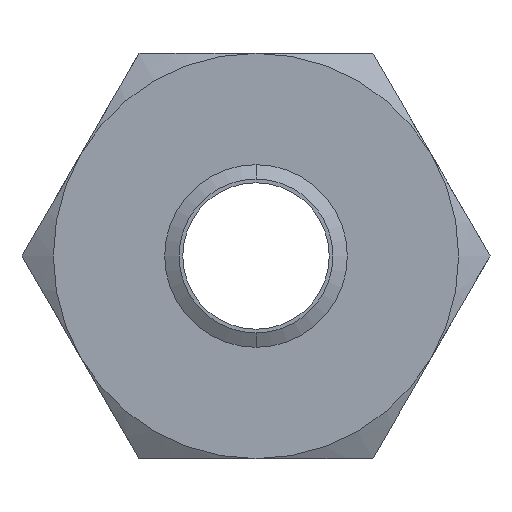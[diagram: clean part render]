
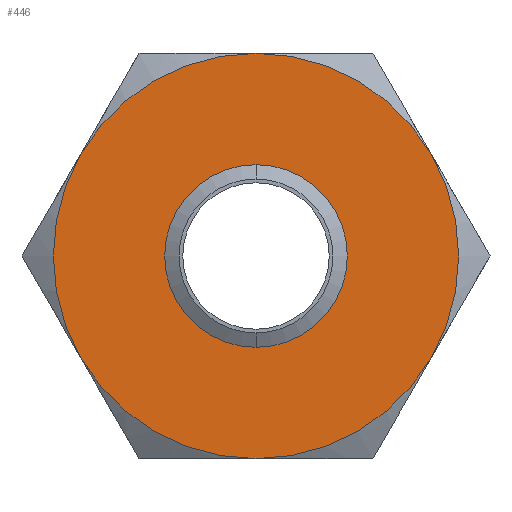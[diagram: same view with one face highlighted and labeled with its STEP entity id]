
A CAD part, front view. The second image highlights one B-rep face of the part: STEP entity #446.
In plain terms, the highlighted planar face has unit normal (0, -1, 0).
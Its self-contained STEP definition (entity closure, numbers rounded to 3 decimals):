
#58 = PLANE ( 'NONE',  #59 ) ;
#59 = AXIS2_PLACEMENT_3D ( 'NONE', #62, #61, #60 ) ;
#60 = DIRECTION ( 'NONE',  ( 0., 0., 1. ) ) ;
#61 = DIRECTION ( 'NONE',  ( 0., 1., 0. ) ) ;
#62 = CARTESIAN_POINT ( 'NONE',  ( 44.745, 0., -77.5 ) ) ;
#423 = ORIENTED_EDGE ( 'NONE', *, *, #2450, .F. ) ;
#431 = EDGE_CURVE ( 'NONE', #432, #436, #1377, .T. ) ;
#432 = VERTEX_POINT ( 'NONE', #1434 ) ;
#434 = ORIENTED_EDGE ( 'NONE', *, *, #431, .F. ) ;
#435 = ORIENTED_EDGE ( 'NONE', *, *, #440, .F. ) ;
#436 = VERTEX_POINT ( 'NONE', #1433 ) ;
#437 = VERTEX_POINT ( 'NONE', #1432 ) ;
#438 = EDGE_CURVE ( 'NONE', #437, #442, #1431, .T. ) ;
#439 = ORIENTED_EDGE ( 'NONE', *, *, #438, .F. ) ;
#440 = EDGE_CURVE ( 'NONE', #436, #437, #1426, .T. ) ;
#441 = EDGE_CURVE ( 'NONE', #442, #443, #1421, .T. ) ;
#442 = VERTEX_POINT ( 'NONE', #1416 ) ;
#443 = VERTEX_POINT ( 'NONE', #1415 ) ;
#444 = ORIENTED_EDGE ( 'NONE', *, *, #441, .F. ) ;
#446 = ADVANCED_FACE ( 'NONE', ( #1410, #1409 ), #58, .F. ) ;
#447 = EDGE_LOOP ( 'NONE', ( #444, #439, #435, #434, #423, #458 ) ) ;
#458 = ORIENTED_EDGE ( 'NONE', *, *, #537, .F. ) ;
#460 = ORIENTED_EDGE ( 'NONE', *, *, #553, .F. ) ;
#461 = ORIENTED_EDGE ( 'NONE', *, *, #462, .F. ) ;
#462 = EDGE_CURVE ( 'NONE', #555, #554, #1450, .T. ) ;
#536 = EDGE_LOOP ( 'NONE', ( #460, #461 ) ) ;
#537 = EDGE_CURVE ( 'NONE', #443, #2453, #1618, .T. ) ;
#553 = EDGE_CURVE ( 'NONE', #554, #555, #1651, .T. ) ;
#554 = VERTEX_POINT ( 'NONE', #1643 ) ;
#555 = VERTEX_POINT ( 'NONE', #1642 ) ;
#1377 = CIRCLE ( 'NONE', #1438, 77.5 ) ;
#1409 = FACE_BOUND ( 'NONE', #536, .T. ) ;
#1410 = FACE_OUTER_BOUND ( 'NONE', #447, .T. ) ;
#1415 = CARTESIAN_POINT ( 'NONE',  ( 67.117, 0., 38.75 ) ) ;
#1416 = CARTESIAN_POINT ( 'NONE',  ( 0., 0., 77.5 ) ) ;
#1417 = DIRECTION ( 'NONE',  ( 0., 0., 1. ) ) ;
#1418 = DIRECTION ( 'NONE',  ( 0., 1., 0. ) ) ;
#1419 = CARTESIAN_POINT ( 'NONE',  ( 0., 0., 0. ) ) ;
#1420 = AXIS2_PLACEMENT_3D ( 'NONE', #1419, #1418, #1417 ) ;
#1421 = CIRCLE ( 'NONE', #1420, 77.5 ) ;
#1422 = DIRECTION ( 'NONE',  ( 0., 0., 1. ) ) ;
#1423 = DIRECTION ( 'NONE',  ( 0., 1., 0. ) ) ;
#1424 = CARTESIAN_POINT ( 'NONE',  ( 0., 0., 0. ) ) ;
#1425 = AXIS2_PLACEMENT_3D ( 'NONE', #1424, #1423, #1422 ) ;
#1426 = CIRCLE ( 'NONE', #1425, 77.5 ) ;
#1427 = DIRECTION ( 'NONE',  ( 0., 0., 1. ) ) ;
#1428 = DIRECTION ( 'NONE',  ( 0., 1., 0. ) ) ;
#1429 = CARTESIAN_POINT ( 'NONE',  ( 0., 0., 0. ) ) ;
#1430 = AXIS2_PLACEMENT_3D ( 'NONE', #1429, #1428, #1427 ) ;
#1431 = CIRCLE ( 'NONE', #1430, 77.5 ) ;
#1432 = CARTESIAN_POINT ( 'NONE',  ( -67.117, 0., 38.75 ) ) ;
#1433 = CARTESIAN_POINT ( 'NONE',  ( -67.117, 0., -38.75 ) ) ;
#1434 = CARTESIAN_POINT ( 'NONE',  ( 0., 0., -77.5 ) ) ;
#1435 = DIRECTION ( 'NONE',  ( 0., 0., 1. ) ) ;
#1436 = DIRECTION ( 'NONE',  ( 0., 1., 0. ) ) ;
#1437 = CARTESIAN_POINT ( 'NONE',  ( 0., 0., 0. ) ) ;
#1438 = AXIS2_PLACEMENT_3D ( 'NONE', #1437, #1436, #1435 ) ;
#1443 = DIRECTION ( 'NONE',  ( 0., 0., -1. ) ) ;
#1444 = DIRECTION ( 'NONE',  ( 0., -1., 0. ) ) ;
#1445 = CARTESIAN_POINT ( 'NONE',  ( 0., 0., 0. ) ) ;
#1446 = AXIS2_PLACEMENT_3D ( 'NONE', #1445, #1444, #1443 ) ;
#1450 = CIRCLE ( 'NONE', #1446, 29.426 ) ;
#1614 = DIRECTION ( 'NONE',  ( 0., 0., 1. ) ) ;
#1615 = DIRECTION ( 'NONE',  ( 0., 1., 0. ) ) ;
#1616 = CARTESIAN_POINT ( 'NONE',  ( 0., 0., 0. ) ) ;
#1617 = AXIS2_PLACEMENT_3D ( 'NONE', #1616, #1615, #1614 ) ;
#1618 = CIRCLE ( 'NONE', #1617, 77.5 ) ;
#1642 = CARTESIAN_POINT ( 'NONE',  ( 0., 0., 29.426 ) ) ;
#1643 = CARTESIAN_POINT ( 'NONE',  ( 0., 0., -29.426 ) ) ;
#1644 = DIRECTION ( 'NONE',  ( 0., 0., -1. ) ) ;
#1645 = DIRECTION ( 'NONE',  ( 0., -1., 0. ) ) ;
#1646 = CARTESIAN_POINT ( 'NONE',  ( 0., 0., 0. ) ) ;
#1647 = AXIS2_PLACEMENT_3D ( 'NONE', #1646, #1645, #1644 ) ;
#1651 = CIRCLE ( 'NONE', #1647, 29.426 ) ;
#2192 = CARTESIAN_POINT ( 'NONE',  ( 0., 0., 0. ) ) ;
#2193 = AXIS2_PLACEMENT_3D ( 'NONE', #2192, #2259, #2258 ) ;
#2200 = CIRCLE ( 'NONE', #2193, 77.5 ) ;
#2256 = CARTESIAN_POINT ( 'NONE',  ( 67.117, 0., -38.75 ) ) ;
#2258 = DIRECTION ( 'NONE',  ( 0., 0., 1. ) ) ;
#2259 = DIRECTION ( 'NONE',  ( 0., 1., 0. ) ) ;
#2450 = EDGE_CURVE ( 'NONE', #2453, #432, #2200, .T. ) ;
#2453 = VERTEX_POINT ( 'NONE', #2256 ) ;
